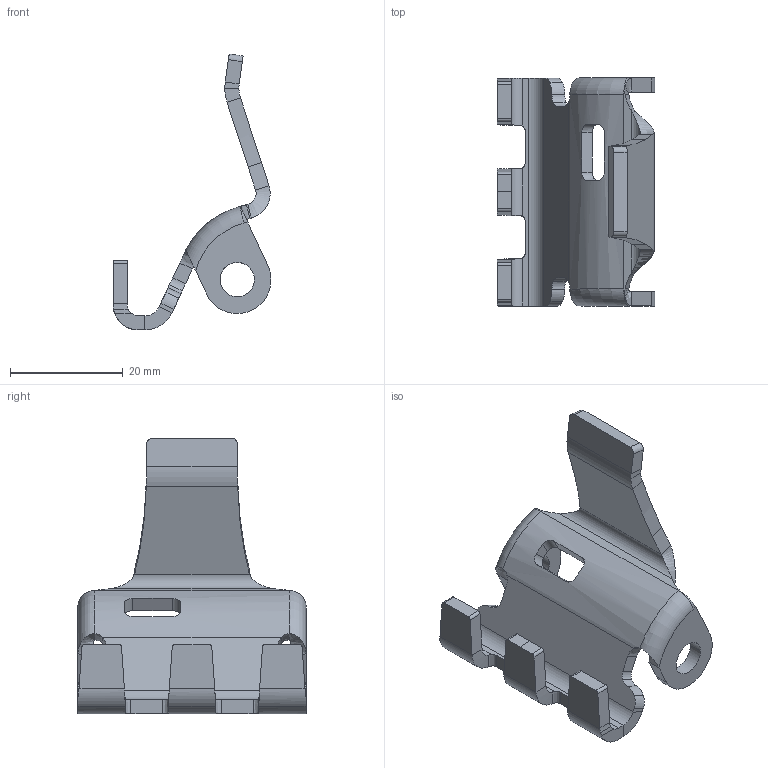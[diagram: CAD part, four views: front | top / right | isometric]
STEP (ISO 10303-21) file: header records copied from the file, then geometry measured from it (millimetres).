
FILE_DESCRIPTION(('CATIA V5 STEP Exchange'),'2;1');
FILE_NAME('E:\张磊\转盘自研\外发冻结数据图纸\2D\2022.11.18-单件图纸\SHT0015135-气动转盘解锁钣金\SHT0015135-20230510.stp','2023-05-10T09:01:39+00:00',('none'),('none'),'CATIA Version 5 Release 20 GA (IN-10)','CATIA V5 STEP AP214','none');
FILE_SCHEMA(('AUTOMOTIVE_DESIGN { 1 0 10303 214 1 1 1 1 }'));
Length unit declared in the file: millimetre
Products named in the file (1): Part29
Bounding box: 27.98 x 40.4 x 48.88 mm (x, y, z)
Volume: 5374.7 mm3; surface area: 5257.8 mm2
Topology: 1 solids, 1 shells, 146 faces, 387 edges, 242 vertices
Faces by surface type: cylinder 59, plane 57, bspline 20, extrusion 6, torus 4
Entity records: 6417 total; most frequent: CARTESIAN_POINT 3186, ORIENTED_EDGE 774, DIRECTION 466, EDGE_CURVE 387, VERTEX_POINT 242, VECTOR 183, LINE 177, AXIS2_PLACEMENT_3D 175
